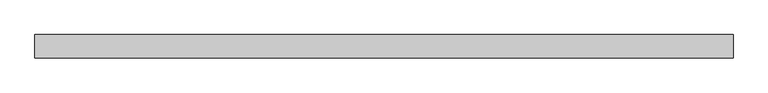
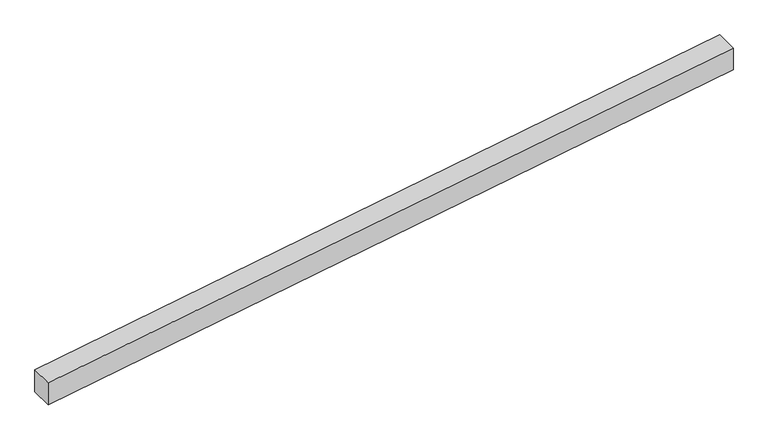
"""IFC4 building model written with IfcOpenShell, lengths in millimetres: proxy geometry, Modelos genéricos 232 : Modelos genéricos 231."""

import ifcopenshell
import ifcopenshell.guid

model = None  # the IFC model being written
_history = None  # IfcOwnerHistory: only IFC2X3 demands one
_inside = {}  # id of a spatial element -> (the spatial element, [elements in it])
_under = {}  # id of a project, library or spatial element -> (it, [spatial elements below it])
_declared = {}  # id of a project -> (the project, [libraries it declares])
_typed = {}  # id of a type object -> (the type object, [elements of that type])
_made_of = {}  # id of a material, layer set ... -> (it, [elements and type objects made of it])


def new_model(schema):
    """Start an empty IFC model of exactly this schema.

    Asked for "IFC4X3", IfcOpenShell would pick the latest addendum, in which some entities
    have other attributes; the version numbers below select the first issue.
    IFC2X3 requires an IfcOwnerHistory on every rooted entity: one is made here for all.
    """
    global model, _history
    if schema == "IFC4X3":
        model = ifcopenshell.file(schema_version=(4, 3, 0, 0))
    else:
        model = ifcopenshell.file(schema=schema)
    _inside.clear()
    _under.clear()
    _declared.clear()
    _typed.clear()
    _made_of.clear()
    _history = None
    if model.schema == "IFC2X3":
        org = make("IfcOrganization", Name="unknown")
        user = make(
            "IfcPersonAndOrganization",
            ThePerson=make("IfcPerson", FamilyName="unknown"),
            TheOrganization=org,
        )
        app = make(
            "IfcApplication",
            ApplicationDeveloper=org,
            Version="unknown",
            ApplicationFullName="unknown",
            ApplicationIdentifier="unknown",
        )
        _history = make(
            "IfcOwnerHistory",
            OwningUser=user,
            OwningApplication=app,
            ChangeAction="ADDED",
            CreationDate=0,
        )
    return model


def make(cls, **values):
    """One entity of the class cls with the attributes given. An attribute that is None is left unset."""
    return model.create_entity(
        cls, **{name: value for name, value in values.items() if value is not None}
    )


def rooted(cls, **values):
    """An entity with a GlobalId (a new one), such as an element, a storey or a relation."""
    return make(cls, GlobalId=ifcopenshell.guid.new(), OwnerHistory=_history, **values)


def si_unit(unit_type, name, prefix=None):
    """IfcSIUnit, for example si_unit("LENGTHUNIT", "METRE", prefix="MILLI")."""
    return make("IfcSIUnit", UnitType=unit_type, Prefix=prefix, Name=name)


def assignment(units):
    """IfcUnitAssignment: the units of a project."""
    return None if units is None else make("IfcUnitAssignment", Units=units)


def point(xyz):
    """IfcCartesianPoint."""
    return None if xyz is None else make("IfcCartesianPoint", Coordinates=xyz)


def direction(xyz):
    """IfcDirection."""
    return None if xyz is None else make("IfcDirection", DirectionRatios=xyz)


def frame(location, z_axis=None, x_axis=None):
    """IfcAxis2Placement3D, a coordinate frame: its origin and axes. An axis left out is left unset."""
    return make(
        "IfcAxis2Placement3D",
        Location=point(location),
        Axis=direction(z_axis),
        RefDirection=direction(x_axis),
    )


def origin():
    """The frame at (0, 0, 0) with its axes left unset."""
    return frame((0.0, 0.0, 0.0))


def place(relative_to, where):
    """IfcLocalPlacement: puts the frame where relative to a parent placement (None: the world)."""
    return make(
        "IfcLocalPlacement", PlacementRelTo=relative_to, RelativePlacement=where
    )


def context(
    kind, dimensions, precision=None, world=None, true_north=None, identifier=None
):
    """IfcGeometricRepresentationContext, for example the 3D "Model" context."""
    return make(
        "IfcGeometricRepresentationContext",
        ContextIdentifier=identifier,
        ContextType=kind,
        CoordinateSpaceDimension=dimensions,
        Precision=precision,
        WorldCoordinateSystem=world,
        TrueNorth=true_north,
    )


def project(units=None, contexts=None):
    """IfcProject with its units and contexts."""
    return rooted(
        "IfcProject",
        Name="project",
        RepresentationContexts=contexts,
        UnitsInContext=assignment(units),
    )


def spatial(cls, under=None, at=None, **own):
    """A site, building, storey or space (cls), placed at a placement, below another one or the project."""
    s = rooted(cls, ObjectPlacement=at, **own)
    if under is not None:
        _under.setdefault(under.id(), (under, []))[1].append(s)
    return s


def polyline(points):
    """IfcPolyline through the points."""
    return make("IfcPolyline", Points=[point(p) for p in points])


def outline(outer, holes=None, kind="AREA"):
    """IfcArbitraryClosedProfileDef: a profile drawn as a closed curve; with holes, ...WithVoids."""
    if holes is None:
        return make("IfcArbitraryClosedProfileDef", ProfileType=kind, OuterCurve=outer)
    return make(
        "IfcArbitraryProfileDefWithVoids",
        ProfileType=kind,
        OuterCurve=outer,
        InnerCurves=holes,
    )


def extrude(swept, where, along, depth):
    """IfcExtrudedAreaSolid: the profile swept, set in the frame where, extruded along a direction by depth."""
    return make(
        "IfcExtrudedAreaSolid",
        SweptArea=swept,
        Position=where,
        ExtrudedDirection=direction(along),
        Depth=depth,
    )


def shape(context_of_items, identifier, shape_type, items):
    """IfcShapeRepresentation: the items that make up one representation, for example the "Body"."""
    return make(
        "IfcShapeRepresentation",
        ContextOfItems=context_of_items,
        RepresentationIdentifier=identifier,
        RepresentationType=shape_type,
        Items=items,
    )


def source(mapping_origin, context_of_items, identifier, shape_type, items):
    """IfcRepresentationMap: a shape defined once, which mapped items show again and again."""
    return make(
        "IfcRepresentationMap",
        MappingOrigin=mapping_origin,
        MappedRepresentation=shape(context_of_items, identifier, shape_type, items),
    )


def transform(
    local_origin,
    x_axis=None,
    y_axis=None,
    z_axis=None,
    scale=None,
    scale2=None,
    scale3=None,
    uniform=True,
):
    """IfcCartesianTransformationOperator3D, or its non-uniform kind. x_axis, y_axis, z_axis: its Axis1, 2, 3."""
    if uniform:
        return make(
            "IfcCartesianTransformationOperator3D",
            Axis1=direction(x_axis),
            Axis2=direction(y_axis),
            LocalOrigin=point(local_origin),
            Scale=scale,
            Axis3=direction(z_axis),
        )
    return make(
        "IfcCartesianTransformationOperator3DnonUniform",
        Axis1=direction(x_axis),
        Axis2=direction(y_axis),
        LocalOrigin=point(local_origin),
        Scale=scale,
        Axis3=direction(z_axis),
        Scale2=scale2,
        Scale3=scale3,
    )


def mapped(mapping_source, mapping_target):
    """IfcMappedItem: shows the shape of a source again, moved by a transform."""
    return make(
        "IfcMappedItem", MappingSource=mapping_source, MappingTarget=mapping_target
    )


def made_of(thing, what):
    """Note that an element or type object is made of a material, layer set ...; save() writes the relation."""
    if what is not None:
        _made_of.setdefault(what.id(), (what, []))[1].append(thing)
    return thing


def element(
    cls,
    number,
    at=None,
    inside=None,
    cuts=None,
    type_object=None,
    material=None,
    context=None,
    identifier="Body",
    shape_type=None,
    held_by="IfcProductDefinitionShape",
    body=None,
    shapes=None,
    **own,
):
    """One element of the class cls, such as IfcWall. Its Tag is "e" and its number.

    at: its placement. inside: the storey or other place that contains it. cuts: it is an
    opening in that element (IfcRelVoidsElement). A single representation is given by context,
    identifier, shape_type and body (its items); several are given by shapes. held_by: the class
    of the entity that holds the representations. save() writes the other relations.
    """
    e = rooted(cls, Tag="e%d" % number, ObjectPlacement=at, **own)
    if body is not None:
        shapes = [shape(context, identifier, shape_type, body)]
    if shapes is not None:
        e.Representation = make(held_by, Representations=shapes)
    if inside is not None:
        _inside.setdefault(inside.id(), (inside, []))[1].append(e)
    if cuts is not None:
        rooted(
            "IfcRelVoidsElement", RelatingBuildingElement=cuts, RelatedOpeningElement=e
        )
    if type_object is not None:
        _typed.setdefault(type_object.id(), (type_object, []))[1].append(e)
    return made_of(e, material)


def aggregate(whole, parts):
    """IfcRelAggregates: a whole, such as a stair, and the parts it consists of."""
    return rooted("IfcRelAggregates", RelatingObject=whole, RelatedObjects=parts)


def save(model, path):
    """Write the relations noted so far, then the file.

    IfcRelAggregates (storeys below a building ...), IfcRelContainedInSpatialStructure (elements
    in a storey), IfcRelDefinesByType, IfcRelAssociatesMaterial and IfcRelDeclares: one each for
    every whole, place, type object, material and project.
    """
    for whole, parts in _under.values():
        aggregate(whole, parts)
    for where, things in _inside.values():
        rooted(
            "IfcRelContainedInSpatialStructure",
            RelatedElements=things,
            RelatingStructure=where,
        )
    for kind, things in _typed.values():
        rooted("IfcRelDefinesByType", RelatedObjects=things, RelatingType=kind)
    for what, things in _made_of.values():
        rooted("IfcRelAssociatesMaterial", RelatedObjects=things, RelatingMaterial=what)
    for by, libraries in _declared.values():
        rooted("IfcRelDeclares", RelatingContext=by, RelatedDefinitions=libraries)
    model.write(path)


def generic_models_0b257a73(model_context):
    return source(origin(), model_context, "Body", "SweptSolid", [
        extrude(outline(polyline([(3721.8097831, 12873.4472467), (3121.6652184, 9283.4472467), (3000.0, 9283.4472467), (3600.1445647, 12873.4472467), (3721.8097831, 12873.4472467)])), frame((0.0, -16.3761835, 0.0), z_axis=(0.0, 1.0, 0.0), x_axis=(0.0, 0.0, 1.0)), (0.0, 0.0, 1.0), 120.0),
    ])


if __name__ == "__main__":
    model = new_model("IFC4")
    model_context = context("Model", 3, world=origin())
    ifc_project = project(units=[si_unit("LENGTHUNIT", "METRE", prefix="MILLI")], contexts=[model_context])
    site = spatial("IfcSite", under=ifc_project)
    building = spatial("IfcBuilding", under=site)
    placement = place(None, origin())
    generic_models_shape = generic_models_0b257a73(model_context)
    element("IfcBuildingElementProxy", 1, Name="Modelos genéricos 232 : Modelos genéricos 231", ObjectType="Modelos genéricos 232 : Modelos genéricos 231", at=placement, inside=building, context=model_context, shape_type="MappedRepresentation", body=[
        mapped(generic_models_shape, transform((0.0, 0.0, 0.0), x_axis=(1.0, 0.0, 0.0), y_axis=(0.0, 1.0, 0.0), z_axis=(0.0, 0.0, 1.0))),
    ])
    save(model, "model.ifc")
